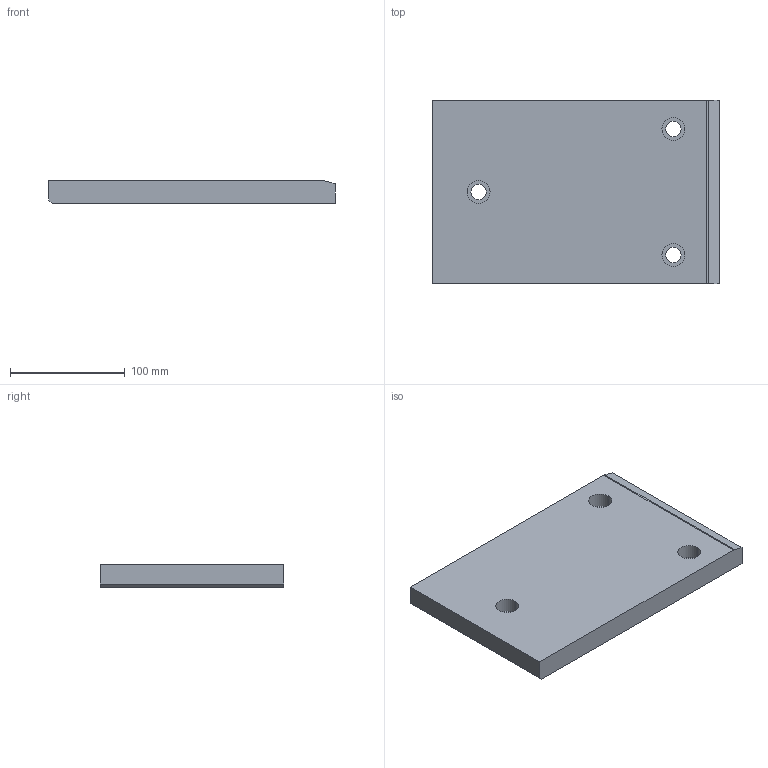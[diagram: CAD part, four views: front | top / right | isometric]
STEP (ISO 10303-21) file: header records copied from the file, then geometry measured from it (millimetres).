
FILE_DESCRIPTION (( 'STEP AP214' ), '1' );
FILE_NAME ('SW225-01-160x2501.STEP', '2020-10-21T10:40:17', ( 'August' ), ( '' ), 'SwSTEP 2.0', 'SolidWorks 2018', '' );
FILE_SCHEMA (( 'AUTOMOTIVE_DESIGN' ));
Length unit declared in the file: millimetre
Products named in the file (1): SW225-01-160x2501
Bounding box: 250 x 160 x 20 mm (x, y, z)
Volume: 781875.3 mm3; surface area: 98191.8 mm2
Topology: 1 solids, 1 shells, 24 faces, 57 edges, 38 vertices
Faces by surface type: cylinder 13, plane 11
Entity records: 753 total; most frequent: DIRECTION 133, CARTESIAN_POINT 120, ORIENTED_EDGE 114, EDGE_CURVE 57, AXIS2_PLACEMENT_3D 51, VERTEX_POINT 38, EDGE_LOOP 33, VECTOR 31
